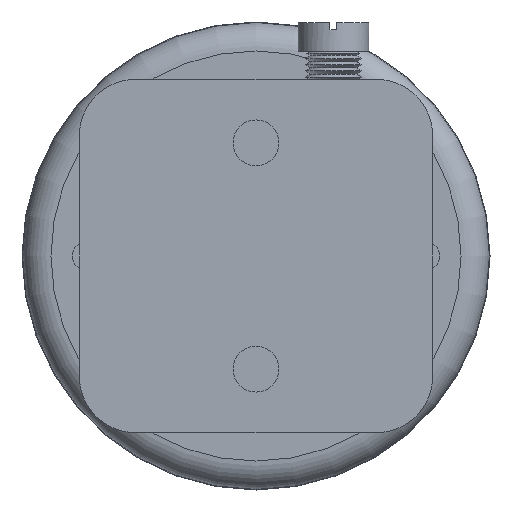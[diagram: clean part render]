
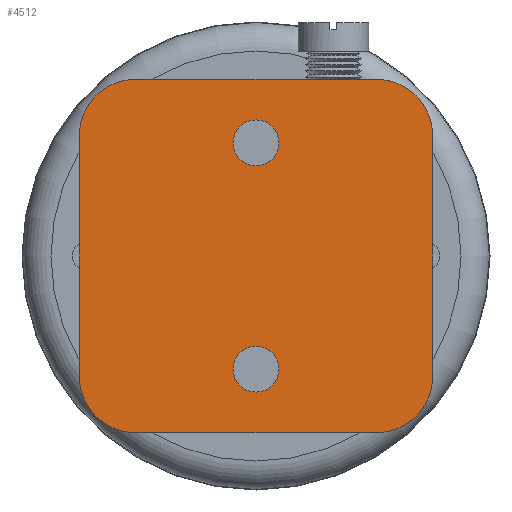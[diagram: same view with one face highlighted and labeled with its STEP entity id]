
A CAD part, front view. The second image highlights one B-rep face of the part: STEP entity #4512.
In plain terms, the highlighted planar face has unit normal (0, -1, 0).
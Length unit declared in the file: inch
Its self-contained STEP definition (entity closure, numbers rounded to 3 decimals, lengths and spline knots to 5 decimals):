
#144 = VERTEX_POINT ( 'NONE', #1097 ) ;
#526 = AXIS2_PLACEMENT_3D ( 'NONE', #1387, #1386, #1385 ) ;
#541 = AXIS2_PLACEMENT_3D ( 'NONE', #1415, #1416, #1417 ) ;
#556 = AXIS2_PLACEMENT_3D ( 'NONE', #5017, #5016, #5015 ) ;
#569 = EDGE_CURVE ( 'NONE', #2633, #2602, #3359, .T. ) ;
#570 = EDGE_CURVE ( 'NONE', #3001, #2637, #3662, .T. ) ;
#573 = EDGE_CURVE ( 'NONE', #2560, #2602, #3374, .T. ) ;
#602 = EDGE_CURVE ( 'NONE', #2633, #2637, #3426, .T. ) ;
#612 = EDGE_CURVE ( 'NONE', #3001, #2366, #3434, .T. ) ;
#849 = AXIS2_PLACEMENT_3D ( 'NONE', #1933, #1934, #1935 ) ;
#851 = AXIS2_PLACEMENT_3D ( 'NONE', #1943, #1944, #1945 ) ;
#859 = AXIS2_PLACEMENT_3D ( 'NONE', #2083, #2084, #2085 ) ;
#905 = AXIS2_PLACEMENT_3D ( 'NONE', #4024, #4035, #4077 ) ;
#1096 = CARTESIAN_POINT ( 'NONE',  ( -0.203, -2.255, 1. ) ) ;
#1097 = CARTESIAN_POINT ( 'NONE',  ( -0.203, -2.255, -1. ) ) ;
#1217 = EDGE_CURVE ( 'NONE', #2560, #2412, #4848, .T. ) ;
#1239 = EDGE_CURVE ( 'NONE', #144, #144, #4776, .T. ) ;
#1244 = EDGE_CURVE ( 'NONE', #4450, #4450, #4760, .T. ) ;
#1259 = EDGE_CURVE ( 'NONE', #2601, #2412, #4836, .T. ) ;
#1279 = EDGE_CURVE ( 'NONE', #2601, #2366, #4849, .T. ) ;
#1385 = DIRECTION ( 'NONE',  ( -1., 0., 0. ) ) ;
#1386 = DIRECTION ( 'NONE',  ( 0., -1., 0. ) ) ;
#1387 = CARTESIAN_POINT ( 'NONE',  ( -1.0625, -2.255, 1.0625 ) ) ;
#1415 = CARTESIAN_POINT ( 'NONE',  ( 1.0625, -2.255, 1.0625 ) ) ;
#1416 = DIRECTION ( 'NONE',  ( 0., -1., 0. ) ) ;
#1417 = DIRECTION ( 'NONE',  ( -1., 0., 0. ) ) ;
#1876 = CARTESIAN_POINT ( 'NONE',  ( 1.5625, -2.255, -1.5625 ) ) ;
#1877 = DIRECTION ( 'NONE',  ( -1., 0., 0. ) ) ;
#1933 = CARTESIAN_POINT ( 'NONE',  ( 0., -2.255, -1. ) ) ;
#1934 = DIRECTION ( 'NONE',  ( 0., 1., 0. ) ) ;
#1935 = DIRECTION ( 'NONE',  ( -1., 0., 0. ) ) ;
#1943 = CARTESIAN_POINT ( 'NONE',  ( 0., -2.255, 1. ) ) ;
#1944 = DIRECTION ( 'NONE',  ( 0., 1., 0. ) ) ;
#1945 = DIRECTION ( 'NONE',  ( -1., 0., 0. ) ) ;
#2083 = CARTESIAN_POINT ( 'NONE',  ( -1.0625, -2.255, -1.0625 ) ) ;
#2084 = DIRECTION ( 'NONE',  ( 0., -1., 0. ) ) ;
#2085 = DIRECTION ( 'NONE',  ( -1., 0., 0. ) ) ;
#2127 = CARTESIAN_POINT ( 'NONE',  ( -1.5625, -2.255, -1.5625 ) ) ;
#2135 = DIRECTION ( 'NONE',  ( 0., 0., 1. ) ) ;
#2193 = CARTESIAN_POINT ( 'NONE',  ( -1.5625, -2.255, 1.0625 ) ) ;
#2208 = CARTESIAN_POINT ( 'NONE',  ( -1.0625, -2.255, -1.5625 ) ) ;
#2209 = CARTESIAN_POINT ( 'NONE',  ( 1.0625, -2.255, -1.5625 ) ) ;
#2222 = FACE_OUTER_BOUND ( 'NONE', #3569, .T. ) ;
#2225 = FACE_BOUND ( 'NONE', #3576, .T. ) ;
#2244 = FACE_BOUND ( 'NONE', #3182, .T. ) ;
#2366 = VERTEX_POINT ( 'NONE', #2193 ) ;
#2412 = VERTEX_POINT ( 'NONE', #2208 ) ;
#2560 = VERTEX_POINT ( 'NONE', #2209 ) ;
#2601 = VERTEX_POINT ( 'NONE', #4344 ) ;
#2602 = VERTEX_POINT ( 'NONE', #4345 ) ;
#2633 = VERTEX_POINT ( 'NONE', #4239 ) ;
#2637 = VERTEX_POINT ( 'NONE', #4429 ) ;
#2821 = ORIENTED_EDGE ( 'NONE', *, *, #1244, .T. ) ;
#2822 = ORIENTED_EDGE ( 'NONE', *, *, #1239, .T. ) ;
#2832 = ORIENTED_EDGE ( 'NONE', *, *, #1279, .F. ) ;
#2833 = ORIENTED_EDGE ( 'NONE', *, *, #1259, .T. ) ;
#2834 = ORIENTED_EDGE ( 'NONE', *, *, #1217, .F. ) ;
#2835 = ORIENTED_EDGE ( 'NONE', *, *, #569, .F. ) ;
#2836 = ORIENTED_EDGE ( 'NONE', *, *, #573, .T. ) ;
#2837 = ORIENTED_EDGE ( 'NONE', *, *, #602, .T. ) ;
#2838 = ORIENTED_EDGE ( 'NONE', *, *, #570, .F. ) ;
#2839 = ORIENTED_EDGE ( 'NONE', *, *, #612, .T. ) ;
#3001 = VERTEX_POINT ( 'NONE', #4186 ) ;
#3182 = EDGE_LOOP ( 'NONE', ( #2821 ) ) ;
#3359 = LINE ( 'NONE', #5062, #3368 ) ;
#3368 = VECTOR ( 'NONE', #5003, 39.37008 ) ;
#3374 = CIRCLE ( 'NONE', #556, 0.5 ) ;
#3426 = CIRCLE ( 'NONE', #541, 0.5 ) ;
#3434 = CIRCLE ( 'NONE', #526, 0.5 ) ;
#3507 = VECTOR ( 'NONE', #5000, 39.37008 ) ;
#3569 = EDGE_LOOP ( 'NONE', ( #2832, #2833, #2834, #2836, #2835, #2837, #2838, #2839 ) ) ;
#3576 = EDGE_LOOP ( 'NONE', ( #2822 ) ) ;
#3662 = LINE ( 'NONE', #5005, #3507 ) ;
#4024 = CARTESIAN_POINT ( 'NONE',  ( -1.5625, -2.255, -1.5625 ) ) ;
#4035 = DIRECTION ( 'NONE',  ( 0., 1., 0. ) ) ;
#4077 = DIRECTION ( 'NONE',  ( -1., 0., 0. ) ) ;
#4078 = PLANE ( 'NONE',  #905 ) ;
#4186 = CARTESIAN_POINT ( 'NONE',  ( -1.0625, -2.255, 1.5625 ) ) ;
#4239 = CARTESIAN_POINT ( 'NONE',  ( 1.5625, -2.255, 1.0625 ) ) ;
#4344 = CARTESIAN_POINT ( 'NONE',  ( -1.5625, -2.255, -1.0625 ) ) ;
#4345 = CARTESIAN_POINT ( 'NONE',  ( 1.5625, -2.255, -1.0625 ) ) ;
#4429 = CARTESIAN_POINT ( 'NONE',  ( 1.0625, -2.255, 1.5625 ) ) ;
#4450 = VERTEX_POINT ( 'NONE', #1096 ) ;
#4512 = ADVANCED_FACE ( 'NONE', ( #2244, #2225, #2222 ), #4078, .F. ) ;
#4760 = CIRCLE ( 'NONE', #851, 0.203 ) ;
#4776 = CIRCLE ( 'NONE', #849, 0.203 ) ;
#4801 = VECTOR ( 'NONE', #2135, 39.37008 ) ;
#4836 = CIRCLE ( 'NONE', #859, 0.5 ) ;
#4842 = VECTOR ( 'NONE', #1877, 39.37008 ) ;
#4848 = LINE ( 'NONE', #1876, #4842 ) ;
#4849 = LINE ( 'NONE', #2127, #4801 ) ;
#5000 = DIRECTION ( 'NONE',  ( 1., 0., 0. ) ) ;
#5003 = DIRECTION ( 'NONE',  ( 0., 0., -1. ) ) ;
#5005 = CARTESIAN_POINT ( 'NONE',  ( 1.5625, -2.255, 1.5625 ) ) ;
#5015 = DIRECTION ( 'NONE',  ( -1., 0., 0. ) ) ;
#5016 = DIRECTION ( 'NONE',  ( 0., -1., 0. ) ) ;
#5017 = CARTESIAN_POINT ( 'NONE',  ( 1.0625, -2.255, -1.0625 ) ) ;
#5062 = CARTESIAN_POINT ( 'NONE',  ( 1.5625, -2.255, -1.5625 ) ) ;
